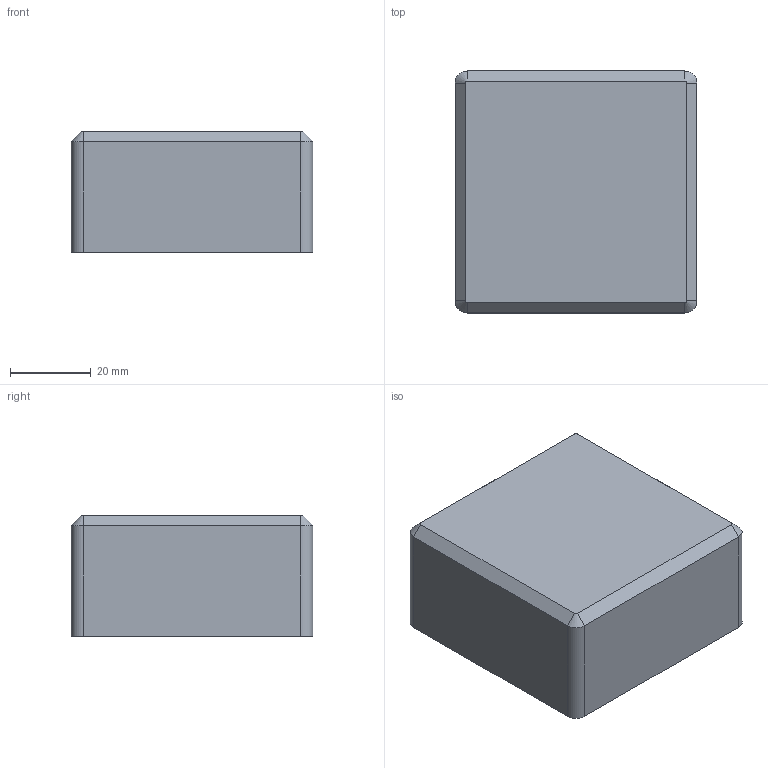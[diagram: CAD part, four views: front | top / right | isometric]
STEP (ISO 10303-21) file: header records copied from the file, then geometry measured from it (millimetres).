
FILE_DESCRIPTION(/* description */ ('Loading'),/* implementation_level */ '2;1');
FILE_NAME(/* name */ 'Z:\Werkstatt Server\Projekte\Atlas\Entwicklung u. Konstruktion\Konstruktion\CAD Daten\ITkPixToolV2.0\Flex Jig\ITPTv2.02.00.07.stp',/* time_stamp */ '2021-08-06T14:26:24+02:00',/* author */ ('Tim Kanngießer'),/* organization */ (''),/* preprocessor_version */ 'ST-DEVELOPER v18.1',/* originating_system */ 'Autodesk Inventor 2022',/* authorisation */ '');
FILE_SCHEMA (('AUTOMOTIVE_DESIGN { 1 0 10303 214 3 1 1 }'));
Length unit declared in the file: millimetre
Products named in the file (1): ITPTv2.02.00.07
Bounding box: 60 x 60 x 30 mm (x, y, z)
Volume: 106076.9 mm3; surface area: 15044.6 mm2
Topology: 1 solids, 1 shells, 48 faces, 120 edges, 74 vertices
Faces by surface type: cone 24, cylinder 14, plane 10
Full cylindrical faces by diameter (mm): 1.4 x4, 3.4 x6
Entity records: 1423 total; most frequent: DIRECTION 260, CARTESIAN_POINT 233, ORIENTED_EDGE 220, EDGE_CURVE 110, AXIS2_PLACEMENT_3D 101, VERTEX_POINT 74, EDGE_LOOP 58, LINE 58
